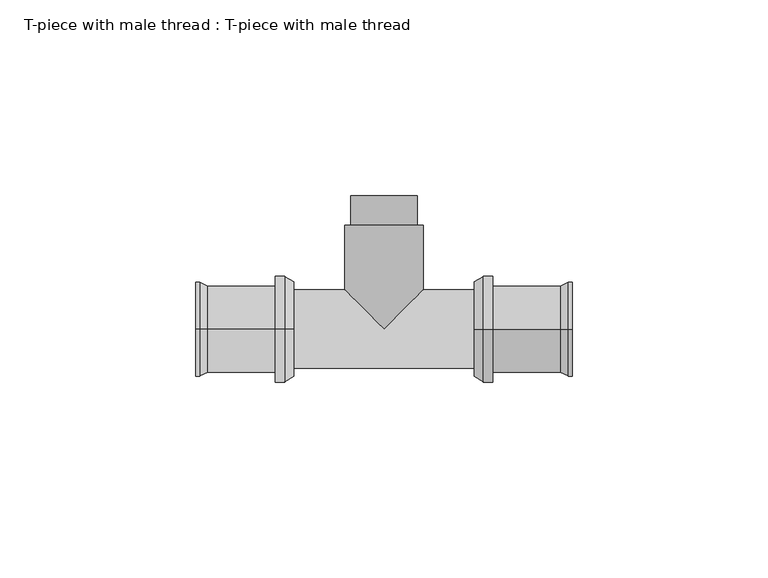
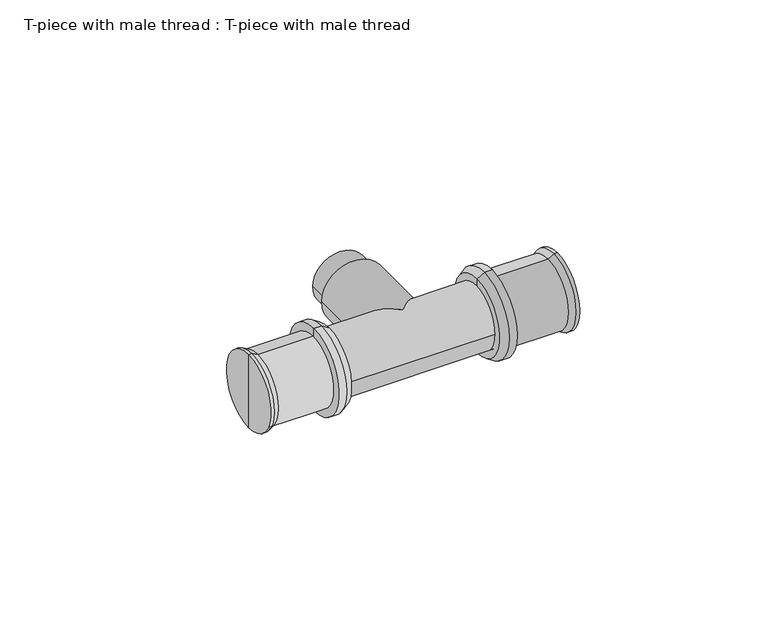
"""IFC4 building model written with IfcOpenShell, lengths in millimetres: pipe fitting geometry, T-piece with male thread : T-piece with male thread."""

from ifc_helpers import new_model, si_unit, frame, origin, place, context, project, spatial, polyline, circle_curve, ellipse_curve, source, transform, mapped, element, save
from ifc_brep_helpers import plane_surface, cylinder_surface, revolved_surface, advanced_brep


def t_piece_with_male_thread_t_piece_with_male_thread_33c9eaeb(model_context):
    return source(origin(), model_context, "Body", "AdvancedBrep", [
        advanced_brep(
        [(23.0, 0.0, 0.0), (23.0, 0.0, 12.1432269), (23.0, 0.0, -12.1432269), (27.7, 0.0, -13.5), (27.7, 0.0, 13.5), (27.7, 0.0, 0.0), (25.35, 0.0, -13.5), (25.35, 0.0, 13.5)],
        [
            (0, 1),
            (1, 2, circle_curve(frame((23.0, 0.0, 0.0), z_axis=(-1.0, 0.0, 0.0), x_axis=(0.0, 0.0, 1.0)), 12.1432269)),
            (2, 0),
            (2, 1, circle_curve(frame((23.0, 0.0, 0.0), z_axis=(-1.0, 0.0, 0.0), x_axis=(0.0, 0.0, 1.0)), 12.1432269)),
            (3, 4, circle_curve(frame((27.7, 0.0, 0.0), z_axis=(1.0, 0.0, 0.0), x_axis=(0.0, 0.0, 1.0)), 13.5)),
            (4, 5),
            (5, 3),
            (4, 3, circle_curve(frame((27.7, 0.0, 0.0), z_axis=(1.0, 0.0, 0.0), x_axis=(0.0, 0.0, 1.0)), 13.5)),
            (6, 7, circle_curve(frame((25.35, 0.0, 0.0), z_axis=(1.0, 0.0, 0.0), x_axis=(0.0, 0.0, 1.0)), 13.5)),
            (7, 4),
            (3, 6),
            (7, 6, circle_curve(frame((25.35, 0.0, 0.0), z_axis=(1.0, 0.0, 0.0), x_axis=(0.0, 0.0, 1.0)), 13.5)),
            (1, 7),
            (6, 2),
        ],
        [
            plane_surface(frame((23.0, 0.0, 0.0), z_axis=(-1.0, 0.0, 0.0), x_axis=(0.0, 0.0, 1.0))),
            plane_surface(frame((27.7, 0.0, 0.0), z_axis=(1.0, 0.0, 0.0), x_axis=(0.0, 0.0, 1.0))),
            cylinder_surface(frame((24.0, 0.0, 0.0), z_axis=(-1.0, 0.0, 0.0), x_axis=(0.0, 0.0, 1.0)), 13.5),
            revolved_surface(polyline([(25.35, 0.0, 13.5), (23.0, 0.0, 12.1432269)]), (24.0, 0.0, 0.0), (-1.0, 0.0, 0.0)),
        ],
        [
            (0, [[1, 2, 3]]),
            (0, [[-3, 4, -1]]),
            (1, [[5, 6, 7]]),
            (1, [[8, -7, -6]]),
            (2, [[9, 10, -5, 11]]),
            (2, [[12, -11, -8, -10]]),
            (3, [[-2, 13, -9, 14]]),
            (3, [[-4, -14, -12, -13]]),
        ],
    ),
        advanced_brep(
        [(27.7, 0.0, -11.0), (27.7, 0.0, 11.0), (45.0, 0.0, 11.0), (45.0, 0.0, -11.0), (48.0, 0.0, -12.0), (48.0, 0.0, 12.0), (48.0, 0.0, 0.0), (27.7, 0.0, 0.0), (47.0, 0.0, -12.0), (47.0, 0.0, 12.0)],
        [
            (0, 1, circle_curve(frame((27.7, 0.0, 0.0), z_axis=(1.0, 0.0, 0.0), x_axis=(0.0, 0.0, 1.0)), 11.0)),
            (1, 2),
            (2, 3, circle_curve(frame((45.0, 0.0, 0.0), z_axis=(-1.0, 0.0, 0.0), x_axis=(0.0, 0.0, 1.0)), 11.0)),
            (3, 0),
            (1, 0, circle_curve(frame((27.7, 0.0, 0.0), z_axis=(1.0, 0.0, 0.0), x_axis=(0.0, 0.0, 1.0)), 11.0)),
            (3, 2, circle_curve(frame((45.0, 0.0, 0.0), z_axis=(-1.0, 0.0, 0.0), x_axis=(0.0, 0.0, 1.0)), 11.0)),
            (4, 5, circle_curve(frame((48.0, 0.0, 0.0), z_axis=(1.0, 0.0, 0.0), x_axis=(0.0, 0.0, 1.0)), 12.0)),
            (5, 6),
            (6, 4),
            (5, 4, circle_curve(frame((48.0, 0.0, 0.0), z_axis=(1.0, 0.0, 0.0), x_axis=(0.0, 0.0, 1.0)), 12.0)),
            (7, 1),
            (0, 7),
            (8, 9, circle_curve(frame((47.0, 0.0, 0.0), z_axis=(1.0, 0.0, 0.0), x_axis=(0.0, 0.0, 1.0)), 12.0)),
            (9, 5),
            (4, 8),
            (9, 8, circle_curve(frame((47.0, 0.0, 0.0), z_axis=(1.0, 0.0, 0.0), x_axis=(0.0, 0.0, 1.0)), 12.0)),
            (2, 9),
            (8, 3),
        ],
        [
            cylinder_surface(frame((-1887.8038476, 0.0, 0.0), z_axis=(-1.0, 0.0, 0.0), x_axis=(0.0, 0.0, 1.0)), 11.0),
            plane_surface(frame((48.0, 0.0, 0.0), z_axis=(1.0, 0.0, 0.0), x_axis=(0.0, 0.0, 1.0))),
            plane_surface(frame((27.7, 0.0, 0.0), z_axis=(-1.0, 0.0, 0.0), x_axis=(0.0, 0.0, 1.0))),
            cylinder_surface(frame((-1887.8038476, 0.0, 0.0), z_axis=(-1.0, 0.0, 0.0), x_axis=(0.0, 0.0, 1.0)), 12.0),
            revolved_surface(polyline([(47.0, 0.0, 12.0), (45.0, 0.0, 11.0)]), (-1887.8038476, 0.0, 0.0), (-1.0, 0.0, 0.0)),
        ],
        [
            (0, [[1, 2, 3, 4]]),
            (0, [[5, -4, 6, -2]]),
            (1, [[7, 8, 9]]),
            (1, [[10, -9, -8]]),
            (2, [[11, -1, 12]]),
            (2, [[-12, -5, -11]]),
            (3, [[13, 14, -7, 15]]),
            (3, [[16, -15, -10, -14]]),
            (4, [[-3, 17, -13, 18]]),
            (4, [[-6, -18, -16, -17]]),
        ],
    ),
        advanced_brep(
        [(-23.0, 0.0, 0.0), (-23.0, 0.0, 12.1432269), (-23.0, 0.0, -12.1432269), (-27.7, 0.0, -13.5), (-27.7, 0.0, 13.5), (-27.7, 0.0, 0.0), (-25.35, 0.0, -13.5), (-25.35, 0.0, 13.5)],
        [
            (0, 1),
            (1, 2, circle_curve(frame((-23.0, 0.0, 0.0), z_axis=(1.0, 0.0, 0.0), x_axis=(0.0, 0.0, 1.0)), 12.1432269)),
            (2, 0),
            (2, 1, circle_curve(frame((-23.0, 0.0, 0.0), z_axis=(1.0, 0.0, 0.0), x_axis=(0.0, 0.0, 1.0)), 12.1432269)),
            (3, 4, circle_curve(frame((-27.7, 0.0, 0.0), z_axis=(-1.0, 0.0, 0.0), x_axis=(0.0, 0.0, 1.0)), 13.5)),
            (4, 5),
            (5, 3),
            (4, 3, circle_curve(frame((-27.7, 0.0, 0.0), z_axis=(-1.0, 0.0, 0.0), x_axis=(0.0, 0.0, 1.0)), 13.5)),
            (6, 7, circle_curve(frame((-25.35, 0.0, 0.0), z_axis=(-1.0, 0.0, 0.0), x_axis=(0.0, 0.0, 1.0)), 13.5)),
            (7, 4),
            (3, 6),
            (7, 6, circle_curve(frame((-25.35, 0.0, 0.0), z_axis=(-1.0, 0.0, 0.0), x_axis=(0.0, 0.0, 1.0)), 13.5)),
            (1, 7),
            (6, 2),
        ],
        [
            plane_surface(frame((-23.0, 0.0, 0.0), z_axis=(1.0, 0.0, 0.0), x_axis=(0.0, 0.0, 1.0))),
            plane_surface(frame((-27.7, 0.0, 0.0), z_axis=(-1.0, 0.0, 0.0), x_axis=(0.0, 0.0, 1.0))),
            cylinder_surface(frame((-24.0, 0.0, 0.0), z_axis=(1.0, 0.0, 0.0), x_axis=(0.0, 0.0, 1.0)), 13.5),
            revolved_surface(polyline([(-25.35, 0.0, 13.5), (-23.0, 0.0, 12.1432269)]), (-24.0, 0.0, 0.0), (1.0, 0.0, 0.0)),
        ],
        [
            (0, [[1, 2, 3]]),
            (0, [[-3, 4, -1]]),
            (1, [[5, 6, 7]]),
            (1, [[8, -7, -6]]),
            (2, [[9, 10, -5, 11]]),
            (2, [[12, -11, -8, -10]]),
            (3, [[-2, 13, -9, 14]]),
            (3, [[-4, -14, -12, -13]]),
        ],
    ),
        advanced_brep(
        [(-27.7, 0.0, -11.0), (-27.7, 0.0, 11.0), (-45.0, 0.0, 11.0), (-45.0, 0.0, -11.0), (-48.0, 0.0, -12.0), (-48.0, 0.0, 12.0), (-48.0, 0.0, 0.0), (-27.7, 0.0, 0.0), (-47.0, 0.0, -12.0), (-47.0, 0.0, 12.0)],
        [
            (0, 1, circle_curve(frame((-27.7, 0.0, 0.0), z_axis=(-1.0, 0.0, 0.0), x_axis=(0.0, 0.0, 1.0)), 11.0)),
            (1, 2),
            (2, 3, circle_curve(frame((-45.0, 0.0, 0.0), z_axis=(1.0, 0.0, 0.0), x_axis=(0.0, 0.0, 1.0)), 11.0)),
            (3, 0),
            (1, 0, circle_curve(frame((-27.7, 0.0, 0.0), z_axis=(-1.0, 0.0, 0.0), x_axis=(0.0, 0.0, 1.0)), 11.0)),
            (3, 2, circle_curve(frame((-45.0, 0.0, 0.0), z_axis=(1.0, 0.0, 0.0), x_axis=(0.0, 0.0, 1.0)), 11.0)),
            (4, 5, circle_curve(frame((-48.0, 0.0, 0.0), z_axis=(-1.0, 0.0, 0.0), x_axis=(0.0, 0.0, 1.0)), 12.0)),
            (5, 6),
            (6, 4),
            (5, 4, circle_curve(frame((-48.0, 0.0, 0.0), z_axis=(-1.0, 0.0, 0.0), x_axis=(0.0, 0.0, 1.0)), 12.0)),
            (7, 1),
            (0, 7),
            (8, 9, circle_curve(frame((-47.0, 0.0, 0.0), z_axis=(-1.0, 0.0, 0.0), x_axis=(0.0, 0.0, 1.0)), 12.0)),
            (9, 5),
            (4, 8),
            (9, 8, circle_curve(frame((-47.0, 0.0, 0.0), z_axis=(-1.0, 0.0, 0.0), x_axis=(0.0, 0.0, 1.0)), 12.0)),
            (2, 9),
            (8, 3),
        ],
        [
            cylinder_surface(frame((1887.8038476, 0.0, 0.0), z_axis=(1.0, 0.0, 0.0), x_axis=(0.0, 0.0, 1.0)), 11.0),
            plane_surface(frame((-48.0, 0.0, 0.0), z_axis=(-1.0, 0.0, 0.0), x_axis=(0.0, 0.0, 1.0))),
            plane_surface(frame((-27.7, 0.0, 0.0), z_axis=(1.0, 0.0, 0.0), x_axis=(0.0, 0.0, 1.0))),
            cylinder_surface(frame((1887.8038476, 0.0, 0.0), z_axis=(1.0, 0.0, 0.0), x_axis=(0.0, 0.0, 1.0)), 12.0),
            revolved_surface(polyline([(-47.0, 0.0, 12.0), (-45.0, 0.0, 11.0)]), (1887.8038476, 0.0, 0.0), (1.0, 0.0, 0.0)),
        ],
        [
            (0, [[1, 2, 3, 4]]),
            (0, [[5, -4, 6, -2]]),
            (1, [[7, 8, 9]]),
            (1, [[10, -9, -8]]),
            (2, [[11, -1, 12]]),
            (2, [[-12, -5, -11]]),
            (3, [[13, 14, -7, 15]]),
            (3, [[16, -15, -10, -14]]),
            (4, [[-3, 17, -13, 18]]),
            (4, [[-6, -18, -16, -17]]),
        ],
    ),
        advanced_brep(
        [(24.0, 10.0, 0.0), (24.0, -10.0, 0.0), (-24.0, 10.0, 0.0), (-24.0, -10.0, 0.0), (10.0, 10.0, 0.0), (0.0, 0.0, 10.0), (-10.0, 10.0, 0.0), (0.0, 0.0, -10.0), (0.0, 34.0, 0.0), (8.5, 34.0, 0.0), (-8.5, 34.0, 0.0), (-10.0, 26.578675, 0.0), (10.0, 26.578675, 0.0), (-8.5, 26.578675, 0.0), (8.5, 26.578675, 0.0)],
        [
            (0, 1, circle_curve(frame((24.0, 0.0, 0.0), z_axis=(1.0, 0.0, 0.0), x_axis=(0.0, -1.0, 0.0)), 10.0)),
            (1, 0, circle_curve(frame((24.0, 0.0, 0.0), z_axis=(1.0, 0.0, 0.0), x_axis=(0.0, -1.0, 0.0)), 10.0)),
            (2, 3, circle_curve(frame((-24.0, 0.0, 0.0), z_axis=(-1.0, 0.0, 0.0), x_axis=(0.0, -1.0, 0.0)), 10.0)),
            (3, 2, circle_curve(frame((-24.0, 0.0, 0.0), z_axis=(-1.0, 0.0, 0.0), x_axis=(0.0, -1.0, 0.0)), 10.0)),
            (0, 4),
            (4, 5, ellipse_curve(frame((0.0, 0.0, 0.0), z_axis=(0.707106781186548, -0.7071067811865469, 0.0), x_axis=(0.707106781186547, 0.7071067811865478, 0.0)), 14.1421356, 10.0)),
            (5, 6, ellipse_curve(frame((0.0, 0.0, 0.0), z_axis=(-0.7071067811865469, -0.707106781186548, 0.0), x_axis=(0.7071067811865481, -0.7071067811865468, 0.0)), 14.1421356, 10.0)),
            (6, 2),
            (3, 1),
            (6, 7, ellipse_curve(frame((0.0, 0.0, 0.0), z_axis=(-0.7071067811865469, -0.707106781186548, 0.0), x_axis=(0.7071067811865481, -0.7071067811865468, 0.0)), 14.1421356, 10.0)),
            (7, 4, ellipse_curve(frame((0.0, 0.0, 0.0), z_axis=(0.707106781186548, -0.7071067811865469, 0.0), x_axis=(0.707106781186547, 0.7071067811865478, 0.0)), 14.1421356, 10.0)),
            (8, 9),
            (9, 10, circle_curve(frame((0.0, 34.0, 0.0), z_axis=(0.0, 1.0, 0.0), x_axis=(1.0, 0.0, 0.0)), 8.5)),
            (10, 8),
            (10, 9, circle_curve(frame((0.0, 34.0, 0.0), z_axis=(0.0, 1.0, 0.0), x_axis=(1.0, 0.0, 0.0)), 8.5)),
            (11, 12, circle_curve(frame((0.0, 26.578675, 0.0), z_axis=(0.0, -1.0, 0.0), x_axis=(1.0, 0.0, 0.0)), 10.0)),
            (12, 4),
            (6, 11),
            (12, 11, circle_curve(frame((0.0, 26.578675, 0.0), z_axis=(0.0, -1.0, 0.0), x_axis=(1.0, 0.0, 0.0)), 10.0)),
            (11, 13),
            (13, 14, circle_curve(frame((0.0, 26.578675, 0.0), z_axis=(0.0, -1.0, 0.0), x_axis=(1.0, 0.0, 0.0)), 8.5)),
            (14, 12),
            (14, 13, circle_curve(frame((0.0, 26.578675, 0.0), z_axis=(0.0, -1.0, 0.0), x_axis=(1.0, 0.0, 0.0)), 8.5)),
            (9, 14),
            (13, 10),
        ],
        [
            plane_surface(frame((24.0, 0.0, 0.0), z_axis=(1.0, 0.0, 0.0), x_axis=(0.0, 0.0, 1.0))),
            plane_surface(frame((-24.0, 0.0, 0.0), z_axis=(-1.0, 0.0, 0.0), x_axis=(0.0, 0.0, 1.0))),
            cylinder_surface(frame((24.0, 0.0, 0.0), z_axis=(1.0, 0.0, 0.0), x_axis=(0.0, -1.0, 0.0)), 10.0),
            plane_surface(frame((0.0, 34.0, 0.0), z_axis=(0.0, 1.0, 0.0), x_axis=(1.0, 0.0, 0.0))),
            cylinder_surface(frame((0.0, 0.0, 0.0), z_axis=(0.0, 1.0, 0.0), x_axis=(1.0, 0.0, 0.0)), 10.0),
            plane_surface(frame((0.0, 26.578675, 0.0), z_axis=(0.0, 1.0, 0.0), x_axis=(1.0, 0.0, 0.0))),
            cylinder_surface(frame((0.0, 0.0, 0.0), z_axis=(0.0, 1.0, 0.0), x_axis=(1.0, 0.0, 0.0)), 8.5),
        ],
        [
            (0, [[1, 2]]),
            (1, [[3, 4]]),
            (2, [[-1, 5, 6, 7, 8, -4, 9]]),
            (2, [[-2, -9, -3, -8, 10, 11, -5]]),
            (3, [[12, 13, 14]]),
            (3, [[-12, -14, 15]]),
            (4, [[16, 17, -11, -10, 18]]),
            (4, [[19, -18, -7, -6, -17]]),
            (5, [[-16, 20, 21, 22]]),
            (5, [[-19, -22, 23, -20]]),
            (6, [[-13, 24, -21, 25]]),
            (6, [[-15, -25, -23, -24]]),
        ],
    ),
    ])


if __name__ == "__main__":
    model = new_model("IFC4")
    model_context = context("Model", 3, world=origin())
    ifc_project = project(units=[si_unit("LENGTHUNIT", "METRE", prefix="MILLI")], contexts=[model_context])
    site = spatial("IfcSite", under=ifc_project)
    building = spatial("IfcBuilding", under=site)
    placement = place(None, origin())
    t_piece_with_male_thread_t_piece_with_male_thread_shape = t_piece_with_male_thread_t_piece_with_male_thread_33c9eaeb(model_context)
    element("IfcPipeFitting", 1, ObjectType="T-piece with male thread : T-piece with male thread", at=placement, inside=building, context=model_context, shape_type="MappedRepresentation", body=[
        mapped(t_piece_with_male_thread_t_piece_with_male_thread_shape, transform((0.0, 0.0, 0.0), x_axis=(1.0, 0.0, 0.0), y_axis=(0.0, 1.0, 0.0), z_axis=(0.0, 0.0, 1.0))),
    ])
    save(model, "model.ifc")
